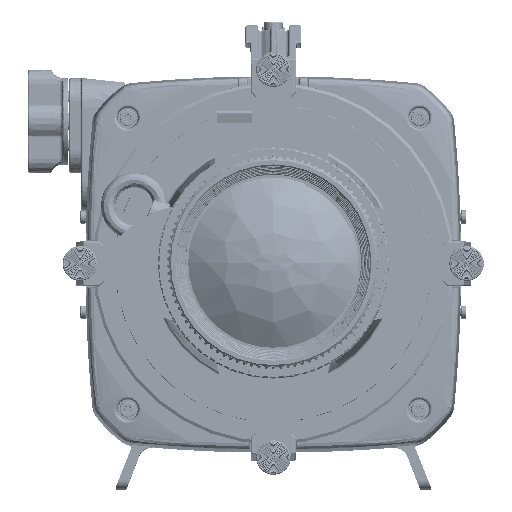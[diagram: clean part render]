
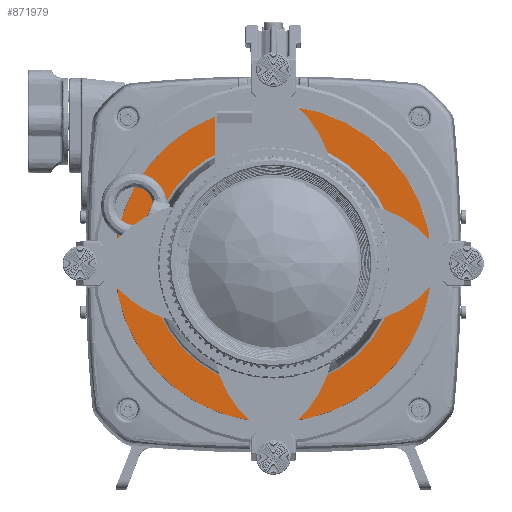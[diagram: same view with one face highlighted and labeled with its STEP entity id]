
A CAD part, top view. The second image highlights one B-rep face of the part: STEP entity #871979.
In plain terms, the highlighted planar face has unit normal (0, 0, 1) as drawn and (0, 0, -1) by its records, which use the part's own axes.
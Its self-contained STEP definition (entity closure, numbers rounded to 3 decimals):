
#862972 = VERTEX_POINT('',#862973);
#862973 = CARTESIAN_POINT('',(-42.999,0.,-7.8));
#862992 = VERTEX_POINT('',#862993);
#862993 = CARTESIAN_POINT('',(42.999,0.,-7.8)
  );
#863000 = EDGE_CURVE('',#862992,#862972,#863001,.T.);
#863001 = CIRCLE('',#863002,42.999);
#863002 = AXIS2_PLACEMENT_3D('',#863003,#863004,#863005);
#863003 = CARTESIAN_POINT('',(0.,0.,-7.8));
#863004 = DIRECTION('',(0.,0.,1.));
#863005 = DIRECTION('',(-1.,0.,0.));
#863462 = VERTEX_POINT('',#863463);
#863463 = CARTESIAN_POINT('',(-54.9,0.,-7.8));
#863469 = EDGE_CURVE('',#863470,#863462,#863472,.T.);
#863470 = VERTEX_POINT('',#863471);
#863471 = CARTESIAN_POINT('',(54.9,0.,-7.8));
#863472 = CIRCLE('',#863473,54.9);
#863473 = AXIS2_PLACEMENT_3D('',#863474,#863475,#863476);
#863474 = CARTESIAN_POINT('',(0.,0.,-7.8));
#863475 = DIRECTION('',(0.,0.,-1.));
#863476 = DIRECTION('',(1.,0.,0.));
#871968 = EDGE_CURVE('',#863462,#863470,#871969,.T.);
#871969 = CIRCLE('',#871970,54.9);
#871970 = AXIS2_PLACEMENT_3D('',#871971,#871972,#871973);
#871971 = CARTESIAN_POINT('',(0.,0.,-7.8));
#871972 = DIRECTION('',(0.,0.,-1.));
#871973 = DIRECTION('',(1.,0.,0.));
#871979 = ADVANCED_FACE('',(#871980,#871990),#871994,.F.);
#871980 = FACE_BOUND('',#871981,.T.);
#871981 = EDGE_LOOP('',(#871982,#871989));
#871982 = ORIENTED_EDGE('',*,*,#871983,.T.);
#871983 = EDGE_CURVE('',#862972,#862992,#871984,.T.);
#871984 = CIRCLE('',#871985,42.999);
#871985 = AXIS2_PLACEMENT_3D('',#871986,#871987,#871988);
#871986 = CARTESIAN_POINT('',(0.,0.,-7.8));
#871987 = DIRECTION('',(0.,0.,1.));
#871988 = DIRECTION('',(-1.,0.,0.));
#871989 = ORIENTED_EDGE('',*,*,#863000,.T.);
#871990 = FACE_BOUND('',#871991,.T.);
#871991 = EDGE_LOOP('',(#871992,#871993));
#871992 = ORIENTED_EDGE('',*,*,#863469,.T.);
#871993 = ORIENTED_EDGE('',*,*,#871968,.T.);
#871994 = PLANE('',#871995);
#871995 = AXIS2_PLACEMENT_3D('',#871996,#871997,#871998);
#871996 = CARTESIAN_POINT('',(0.,54.9,-7.8));
#871997 = DIRECTION('',(0.,0.,1.));
#871998 = DIRECTION('',(-1.,0.,0.));
